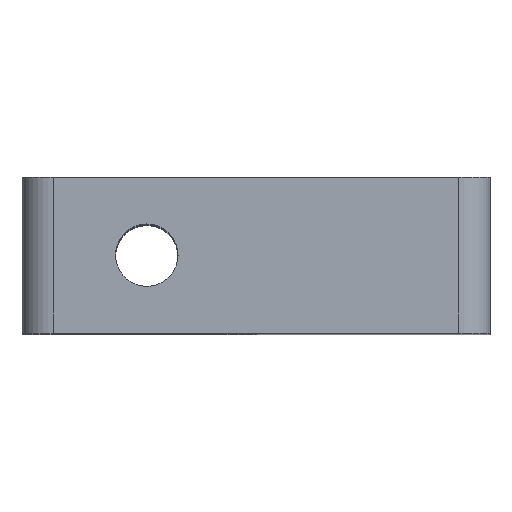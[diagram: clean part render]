
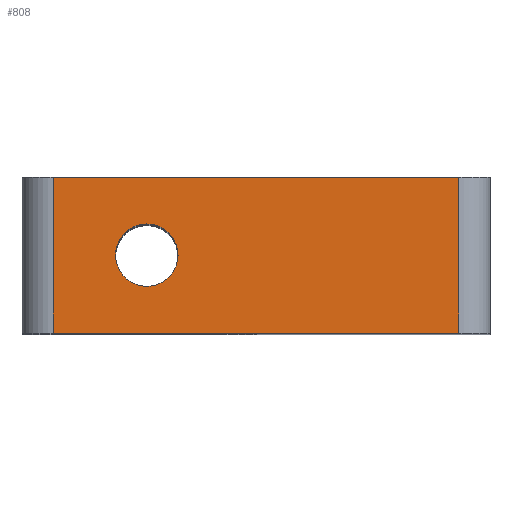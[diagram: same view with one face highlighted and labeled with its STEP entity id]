
A CAD part, top view. The second image highlights one B-rep face of the part: STEP entity #808.
In plain terms, the highlighted planar face has unit normal (0, 0, 1).
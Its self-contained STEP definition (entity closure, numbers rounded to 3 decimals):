
#25 = EDGE_CURVE ( 'NONE', #312, #804, #972, .T. ) ;
#40 = CARTESIAN_POINT ( 'NONE',  ( -7.5, 5., 16. ) ) ;
#91 = ORIENTED_EDGE ( 'NONE', *, *, #213, .F. ) ;
#110 = CARTESIAN_POINT ( 'NONE',  ( -6.5, 0., 16. ) ) ;
#111 = VECTOR ( 'NONE', #963, 1000. ) ;
#172 = DIRECTION ( 'NONE',  ( 0., 0., 1. ) ) ;
#183 = DIRECTION ( 'NONE',  ( 1., 0., 0. ) ) ;
#193 = VECTOR ( 'NONE', #406, 1000. ) ;
#213 = EDGE_CURVE ( 'NONE', #804, #312, #755, .T. ) ;
#222 = LINE ( 'NONE', #839, #293 ) ;
#284 = DIRECTION ( 'NONE',  ( 0., 0., -1. ) ) ;
#285 = CARTESIAN_POINT ( 'NONE',  ( -7.5, 0., 16. ) ) ;
#293 = VECTOR ( 'NONE', #906, 1000. ) ;
#312 = VERTEX_POINT ( 'NONE', #343 ) ;
#323 = EDGE_LOOP ( 'NONE', ( #619, #91 ) ) ;
#335 = EDGE_CURVE ( 'NONE', #799, #434, #880, .T. ) ;
#343 = CARTESIAN_POINT ( 'NONE',  ( -2.5, 2.5, 16. ) ) ;
#351 = LINE ( 'NONE', #357, #111 ) ;
#357 = CARTESIAN_POINT ( 'NONE',  ( 6.5, 5., 16. ) ) ;
#360 = PLANE ( 'NONE',  #614 ) ;
#362 = EDGE_CURVE ( 'NONE', #434, #969, #351, .T. ) ;
#370 = AXIS2_PLACEMENT_3D ( 'NONE', #611, #374, #980 ) ;
#374 = DIRECTION ( 'NONE',  ( 0., 0., 1. ) ) ;
#399 = AXIS2_PLACEMENT_3D ( 'NONE', #856, #172, #183 ) ;
#406 = DIRECTION ( 'NONE',  ( 1., 0., 0. ) ) ;
#413 = VECTOR ( 'NONE', #592, 1000. ) ;
#434 = VERTEX_POINT ( 'NONE', #827 ) ;
#506 = ORIENTED_EDGE ( 'NONE', *, *, #588, .F. ) ;
#509 = ORIENTED_EDGE ( 'NONE', *, *, #335, .T. ) ;
#543 = VERTEX_POINT ( 'NONE', #854 ) ;
#556 = CARTESIAN_POINT ( 'NONE',  ( 6.5, 5., 16. ) ) ;
#583 = FACE_BOUND ( 'NONE', #323, .T. ) ;
#588 = EDGE_CURVE ( 'NONE', #543, #969, #936, .T. ) ;
#592 = DIRECTION ( 'NONE',  ( 1., 0., 0. ) ) ;
#611 = CARTESIAN_POINT ( 'NONE',  ( -3.5, 2.5, 16. ) ) ;
#614 = AXIS2_PLACEMENT_3D ( 'NONE', #40, #284, #953 ) ;
#619 = ORIENTED_EDGE ( 'NONE', *, *, #25, .F. ) ;
#633 = ORIENTED_EDGE ( 'NONE', *, *, #883, .T. ) ;
#652 = ORIENTED_EDGE ( 'NONE', *, *, #362, .T. ) ;
#654 = CARTESIAN_POINT ( 'NONE',  ( -4.5, 2.5, 16. ) ) ;
#745 = EDGE_LOOP ( 'NONE', ( #509, #652, #506, #633 ) ) ;
#755 = CIRCLE ( 'NONE', #399, 1. ) ;
#797 = FACE_OUTER_BOUND ( 'NONE', #745, .T. ) ;
#799 = VERTEX_POINT ( 'NONE', #110 ) ;
#804 = VERTEX_POINT ( 'NONE', #654 ) ;
#808 = ADVANCED_FACE ( 'NONE', ( #583, #797 ), #360, .F. ) ;
#827 = CARTESIAN_POINT ( 'NONE',  ( 6.5, 0., 16. ) ) ;
#839 = CARTESIAN_POINT ( 'NONE',  ( -6.5, 5., 16. ) ) ;
#854 = CARTESIAN_POINT ( 'NONE',  ( -6.5, 5., 16. ) ) ;
#856 = CARTESIAN_POINT ( 'NONE',  ( -3.5, 2.5, 16. ) ) ;
#880 = LINE ( 'NONE', #285, #413 ) ;
#883 = EDGE_CURVE ( 'NONE', #543, #799, #222, .T. ) ;
#906 = DIRECTION ( 'NONE',  ( 0., -1., 0. ) ) ;
#928 = CARTESIAN_POINT ( 'NONE',  ( -7.5, 5., 16. ) ) ;
#936 = LINE ( 'NONE', #928, #193 ) ;
#953 = DIRECTION ( 'NONE',  ( -1., 0., 0. ) ) ;
#963 = DIRECTION ( 'NONE',  ( 0., 1., 0. ) ) ;
#969 = VERTEX_POINT ( 'NONE', #556 ) ;
#972 = CIRCLE ( 'NONE', #370, 1. ) ;
#980 = DIRECTION ( 'NONE',  ( 1., 0., 0. ) ) ;
